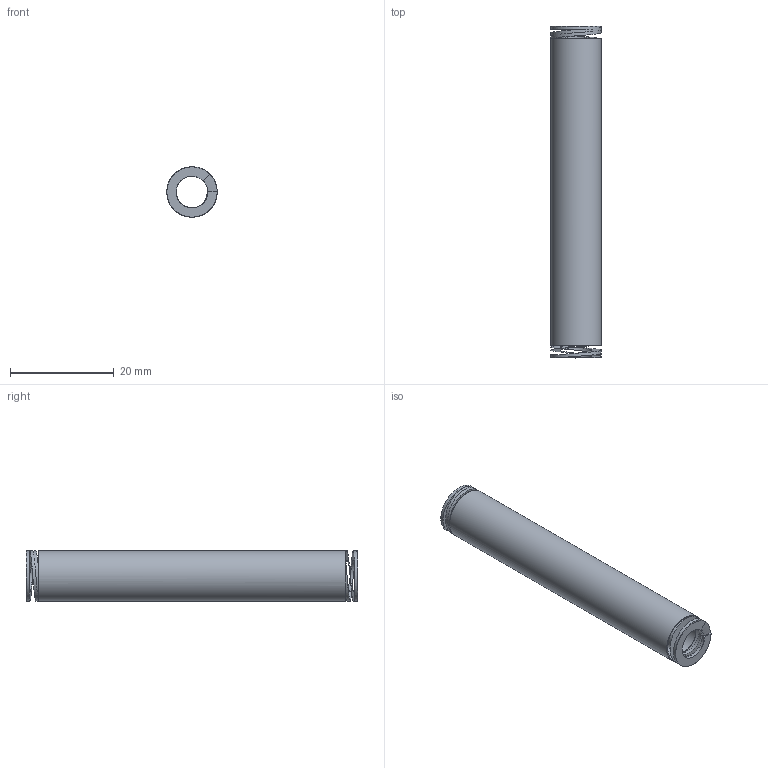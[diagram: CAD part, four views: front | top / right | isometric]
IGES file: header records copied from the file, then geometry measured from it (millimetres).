
Global section: file name: 2S10065; native system: Autodesk Inventor 2026; preprocessor: unknown; author: J. Iwanek; date: 20261007.112414; units: millimetre
Bounding box: 9.7 x 64 x 9.7 mm (x, y, z)
Volume: 1355 mm3; surface area: 3254.9 mm2
Topology: 1 solids, 1 shells, 22 faces, 74 edges, 46 vertices
Faces by surface type: bspline 22
